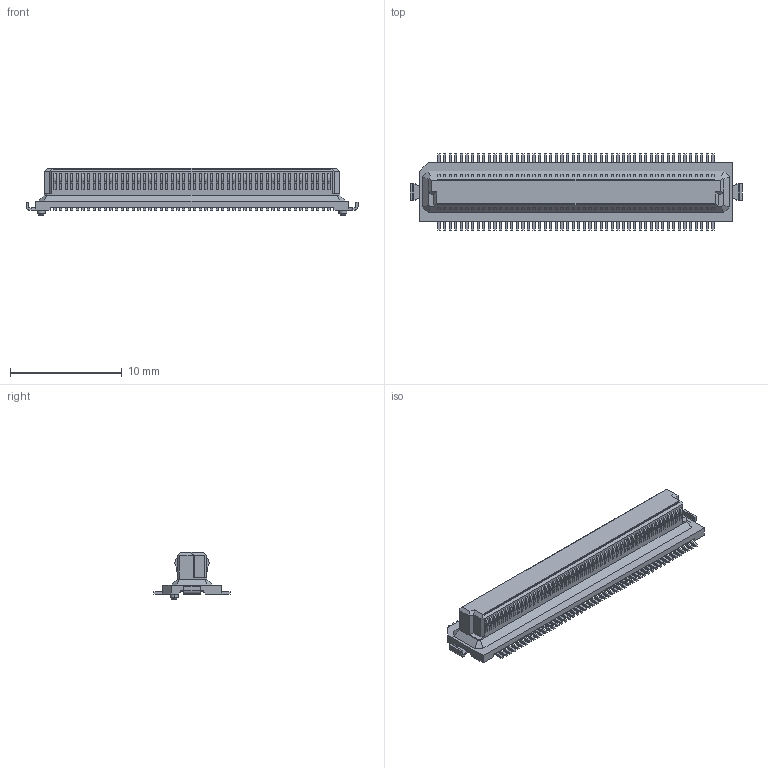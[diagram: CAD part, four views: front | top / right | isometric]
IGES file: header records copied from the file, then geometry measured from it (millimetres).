
Start section: Elysium IGES Interface
Global section: file name: 120HG:\その他\DY関連\CAD\依頼書（ウェブ）_HP用データ\60-36-0111_DY1X-S-1-H\P3E372_DY11-100S-1-T-H\P3E372_DY11-100S-1-T-H.igs; native system: Creo Elements/Direct Modeling 20.4A  18-Oct-2021; preprocessor: Creo Element/Direct IGES_3D V2.2; author: Unknown; organization: Unknown; date: 20220301.105939; units: millimetre
Bounding box: 29.7 x 6.8 x 4.23 mm (x, y, z)
Volume: 299.4 mm3; surface area: 642.1 mm2
Topology: 1 solids, 1 shells, 1534 faces, 3951 edges, 2622 vertices
Faces by surface type: bspline 1534
